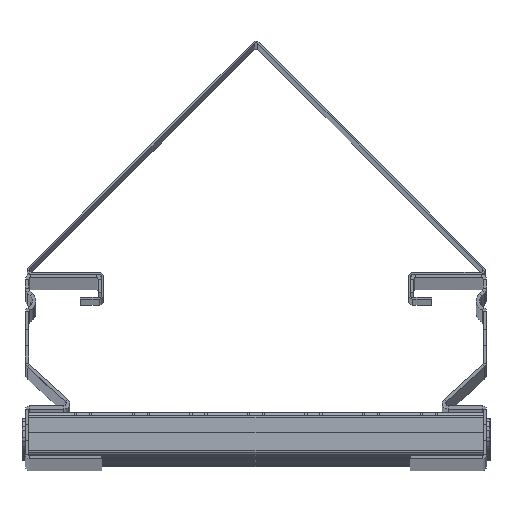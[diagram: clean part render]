
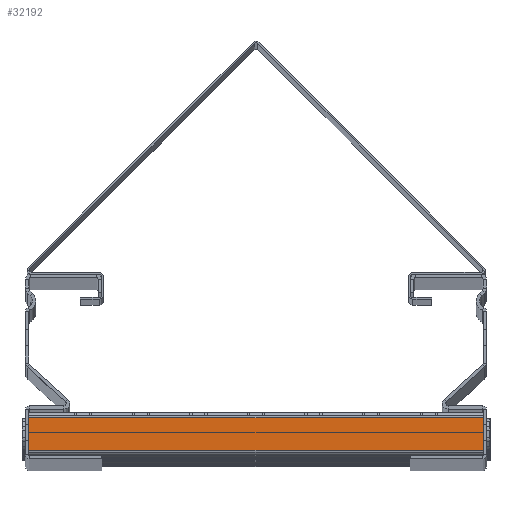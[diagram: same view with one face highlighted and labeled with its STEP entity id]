
A CAD part, top view. The second image highlights one B-rep face of the part: STEP entity #32192.
In plain terms, the highlighted planar face has unit normal (0, 0, 1) as drawn and (1, 0, 0) by its records, which use the part's own axes.
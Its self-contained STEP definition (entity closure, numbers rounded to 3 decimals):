
#373 = AXIS2_PLACEMENT_3D ( 'NONE', #37030, #17661, #44832 ) ;
#770 = VERTEX_POINT ( 'NONE', #14840 ) ;
#1740 = DIRECTION ( 'NONE',  ( 0., 0., -1. ) ) ;
#3481 = VECTOR ( 'NONE', #35605, 1000. ) ;
#3513 = CARTESIAN_POINT ( 'NONE',  ( 19.5, 2.75, 99.9 ) ) ;
#4115 = CARTESIAN_POINT ( 'NONE',  ( 19.5, 16.25, -99.9 ) ) ;
#4733 = LINE ( 'NONE', #50329, #23014 ) ;
#4839 = CARTESIAN_POINT ( 'NONE',  ( 19.5, 16.5, 98.5 ) ) ;
#4899 = ORIENTED_EDGE ( 'NONE', *, *, #27361, .F. ) ;
#5185 = ORIENTED_EDGE ( 'NONE', *, *, #17182, .F. ) ;
#5910 = VERTEX_POINT ( 'NONE', #40867 ) ;
#6115 = ORIENTED_EDGE ( 'NONE', *, *, #31340, .T. ) ;
#7076 = VECTOR ( 'NONE', #30761, 1000. ) ;
#8339 = LINE ( 'NONE', #46056, #17470 ) ;
#9797 = VECTOR ( 'NONE', #43609, 1000. ) ;
#10068 = VERTEX_POINT ( 'NONE', #15653 ) ;
#11178 = VECTOR ( 'NONE', #50214, 1000. ) ;
#11331 = EDGE_CURVE ( 'NONE', #34209, #33829, #12533, .T. ) ;
#11345 = CARTESIAN_POINT ( 'NONE',  ( 19.5, 16.25, 98.5 ) ) ;
#12386 = LINE ( 'NONE', #46324, #11178 ) ;
#12533 = LINE ( 'NONE', #39391, #29567 ) ;
#13715 = ORIENTED_EDGE ( 'NONE', *, *, #49272, .F. ) ;
#13900 = LINE ( 'NONE', #47123, #3481 ) ;
#14291 = EDGE_CURVE ( 'NONE', #34291, #770, #40859, .T. ) ;
#14840 = CARTESIAN_POINT ( 'NONE',  ( 19.5, 2.75, -99.9 ) ) ;
#14913 = CARTESIAN_POINT ( 'NONE',  ( 19.5, 16.25, -99.9 ) ) ;
#15030 = LINE ( 'NONE', #19540, #44800 ) ;
#15451 = CARTESIAN_POINT ( 'NONE',  ( 19.5, 2.5, -98.5 ) ) ;
#15653 = CARTESIAN_POINT ( 'NONE',  ( 19.5, 16.25, 99.9 ) ) ;
#15858 = EDGE_LOOP ( 'NONE', ( #34570, #13715, #21228, #16360, #37926, #40648, #34381, #5185, #4899, #20575, #30532, #6115 ) ) ;
#16360 = ORIENTED_EDGE ( 'NONE', *, *, #30373, .T. ) ;
#16981 = VERTEX_POINT ( 'NONE', #15451 ) ;
#17182 = EDGE_CURVE ( 'NONE', #10068, #34209, #30477, .T. ) ;
#17270 = CARTESIAN_POINT ( 'NONE',  ( 19.5, 2.5, 98.5 ) ) ;
#17302 = VERTEX_POINT ( 'NONE', #17270 ) ;
#17470 = VECTOR ( 'NONE', #38443, 1000. ) ;
#17661 = DIRECTION ( 'NONE',  ( -1., 0., 0. ) ) ;
#18212 = CARTESIAN_POINT ( 'NONE',  ( 19.5, 16.5, -98.5 ) ) ;
#18783 = LINE ( 'NONE', #4839, #38257 ) ;
#19540 = CARTESIAN_POINT ( 'NONE',  ( 19.5, 16.5, -98.5 ) ) ;
#19877 = CARTESIAN_POINT ( 'NONE',  ( 19.5, 2.75, -98.5 ) ) ;
#20153 = CARTESIAN_POINT ( 'NONE',  ( 19.5, 2.75, 98.5 ) ) ;
#20575 = ORIENTED_EDGE ( 'NONE', *, *, #40165, .T. ) ;
#21228 = ORIENTED_EDGE ( 'NONE', *, *, #14291, .F. ) ;
#22197 = VERTEX_POINT ( 'NONE', #20153 ) ;
#23014 = VECTOR ( 'NONE', #27091, 1000. ) ;
#27091 = DIRECTION ( 'NONE',  ( 0., 0., -1. ) ) ;
#27361 = EDGE_CURVE ( 'NONE', #5910, #10068, #48422, .T. ) ;
#27439 = EDGE_CURVE ( 'NONE', #16981, #38988, #15030, .T. ) ;
#27714 = VECTOR ( 'NONE', #1740, 1000. ) ;
#28365 = CARTESIAN_POINT ( 'NONE',  ( 19.5, 16.5, 98.5 ) ) ;
#29006 = CARTESIAN_POINT ( 'NONE',  ( 19.5, 2.5, 98.5 ) ) ;
#29314 = EDGE_CURVE ( 'NONE', #35180, #40561, #12386, .T. ) ;
#29567 = VECTOR ( 'NONE', #31592, 1000. ) ;
#30373 = EDGE_CURVE ( 'NONE', #34291, #35180, #8339, .T. ) ;
#30477 = LINE ( 'NONE', #35795, #9797 ) ;
#30532 = ORIENTED_EDGE ( 'NONE', *, *, #32323, .F. ) ;
#30761 = DIRECTION ( 'NONE',  ( 0., 1., 0. ) ) ;
#31340 = EDGE_CURVE ( 'NONE', #17302, #16981, #49543, .T. ) ;
#31592 = DIRECTION ( 'NONE',  ( 0., 1., 0. ) ) ;
#32192 = ADVANCED_FACE ( 'NONE', ( #41005 ), #36859, .F. ) ;
#32323 = EDGE_CURVE ( 'NONE', #17302, #22197, #36148, .T. ) ;
#33829 = VERTEX_POINT ( 'NONE', #28365 ) ;
#34115 = DIRECTION ( 'NONE',  ( 0., 1., 0. ) ) ;
#34209 = VERTEX_POINT ( 'NONE', #11345 ) ;
#34291 = VERTEX_POINT ( 'NONE', #4115 ) ;
#34381 = ORIENTED_EDGE ( 'NONE', *, *, #11331, .F. ) ;
#34570 = ORIENTED_EDGE ( 'NONE', *, *, #27439, .T. ) ;
#34908 = VECTOR ( 'NONE', #34115, 1000. ) ;
#35180 = VERTEX_POINT ( 'NONE', #36721 ) ;
#35605 = DIRECTION ( 'NONE',  ( 0., 0., 1. ) ) ;
#35795 = CARTESIAN_POINT ( 'NONE',  ( 19.5, 16.25, 99.9 ) ) ;
#36148 = LINE ( 'NONE', #41735, #34908 ) ;
#36721 = CARTESIAN_POINT ( 'NONE',  ( 19.5, 16.25, -98.5 ) ) ;
#36859 = PLANE ( 'NONE',  #373 ) ;
#37030 = CARTESIAN_POINT ( 'NONE',  ( 19.5, 16.5, 98.5 ) ) ;
#37926 = ORIENTED_EDGE ( 'NONE', *, *, #29314, .T. ) ;
#38257 = VECTOR ( 'NONE', #47510, 1000. ) ;
#38443 = DIRECTION ( 'NONE',  ( 0., 0., 1. ) ) ;
#38988 = VERTEX_POINT ( 'NONE', #19877 ) ;
#39391 = CARTESIAN_POINT ( 'NONE',  ( 19.5, 16.5, 98.5 ) ) ;
#40165 = EDGE_CURVE ( 'NONE', #5910, #22197, #4733, .T. ) ;
#40561 = VERTEX_POINT ( 'NONE', #18212 ) ;
#40648 = ORIENTED_EDGE ( 'NONE', *, *, #43135, .F. ) ;
#40859 = LINE ( 'NONE', #14913, #49932 ) ;
#40867 = CARTESIAN_POINT ( 'NONE',  ( 19.5, 2.75, 99.9 ) ) ;
#41005 = FACE_OUTER_BOUND ( 'NONE', #15858, .T. ) ;
#41735 = CARTESIAN_POINT ( 'NONE',  ( 19.5, 16.5, 98.5 ) ) ;
#42797 = DIRECTION ( 'NONE',  ( 0., 1., 0. ) ) ;
#43135 = EDGE_CURVE ( 'NONE', #33829, #40561, #18783, .T. ) ;
#43609 = DIRECTION ( 'NONE',  ( 0., 0., -1. ) ) ;
#44800 = VECTOR ( 'NONE', #42797, 1000. ) ;
#44832 = DIRECTION ( 'NONE',  ( 0., 0., 1. ) ) ;
#46056 = CARTESIAN_POINT ( 'NONE',  ( 19.5, 16.25, -99.9 ) ) ;
#46324 = CARTESIAN_POINT ( 'NONE',  ( 19.5, 16.5, -98.5 ) ) ;
#47123 = CARTESIAN_POINT ( 'NONE',  ( 19.5, 2.75, -99.9 ) ) ;
#47510 = DIRECTION ( 'NONE',  ( 0., 0., -1. ) ) ;
#48422 = LINE ( 'NONE', #3513, #7076 ) ;
#49272 = EDGE_CURVE ( 'NONE', #770, #38988, #13900, .T. ) ;
#49543 = LINE ( 'NONE', #29006, #27714 ) ;
#49829 = DIRECTION ( 'NONE',  ( 0., -1., 0. ) ) ;
#49932 = VECTOR ( 'NONE', #49829, 1000. ) ;
#50214 = DIRECTION ( 'NONE',  ( 0., 1., 0. ) ) ;
#50329 = CARTESIAN_POINT ( 'NONE',  ( 19.5, 2.75, 99.9 ) ) ;
